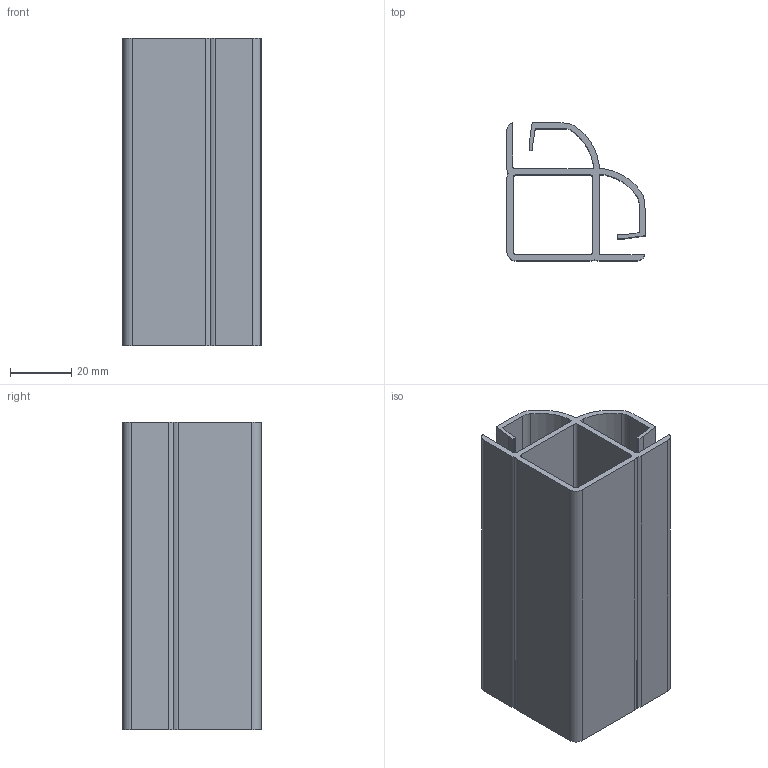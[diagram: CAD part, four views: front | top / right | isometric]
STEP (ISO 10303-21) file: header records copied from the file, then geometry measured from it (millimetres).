
FILE_DESCRIPTION (( 'STEP AP203' ), '1' );
FILE_NAME ('013.030.010.STEP', '2020-09-18T14:21:49', ( '' ), ( '' ), 'SwSTEP 2.0', 'SolidWorks 2018', '' );
FILE_SCHEMA (( 'CONFIG_CONTROL_DESIGN' ));
Length unit declared in the file: millimetre
Products named in the file (1): 013.030.010
Bounding box: 45 x 45 x 100 mm (x, y, z)
Volume: 40753.8 mm3; surface area: 43130.1 mm2
Topology: 1 solids, 1 shells, 64 faces, 186 edges, 124 vertices
Faces by surface type: plane 32, cylinder 28, bspline 4
Entity records: 2231 total; most frequent: CARTESIAN_POINT 427, ORIENTED_EDGE 372, DIRECTION 356, EDGE_CURVE 186, VERTEX_POINT 124, LINE 122, VECTOR 122, AXIS2_PLACEMENT_3D 117
